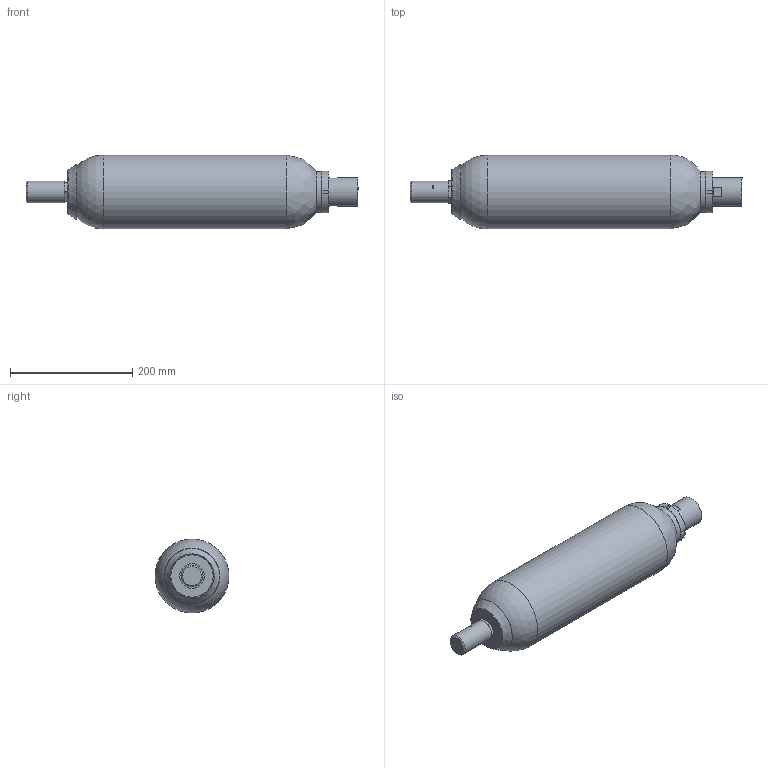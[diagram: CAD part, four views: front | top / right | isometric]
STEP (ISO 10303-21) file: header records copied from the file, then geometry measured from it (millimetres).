
FILE_DESCRIPTION((''),'2;1');
FILE_NAME('F:\STEP\ALLEGE\GAMME_EHV_STD_690bar\EHV_2L5_690_90.stp','2011-03-04T15:04:06',('laurent.simeon'),(''),'Autodesk Inventor 2011','Autodesk Inventor 2011','');
FILE_SCHEMA(('AUTOMOTIVE_DESIGN { 1 0 10303 214 1 1 1 1 }'));
Length unit declared in the file: millimetre
Products named in the file (16): EHV_2L5_690_90; CA109026-00190; CA109027-00190; BE109156-00200; CB109144-00200; EC100986-00200; BE100291-00200; EC102958-00200; PF108610-05200; BP085347-00200
Assembly tree (15 placements, depth 4):
  EHV_2L5_690_90
    CA109026-00190
      CA109027-00190
    BE109156-00200
      CB109144-00200
        CB109144-00200
      EC100986-00200
        EC100986-00200
      BE100291-00200
        BE100291-00200
    EC102958-00200
      EC102958-00200
    PF108610-05200
      PF108610-05200
    BP085347-00200
      BP085347-00200
Bounding box: 543.2 x 121 x 121 mm (x, y, z)
Volume: 1685432.6 mm3; surface area: 360257.2 mm2
Topology: 7 solids, 7 shells, 148 faces, 354 edges, 217 vertices
Faces by surface type: plane 58, cylinder 41, cone 27, torus 18, sphere 3, bspline 1
Full cylindrical faces by diameter (mm): 2 x2, 6.5 x8, 8 x1, 11.5 x1, 13 x1, 20.68 x1, 22.52 x1, 27 x1, 28 x1, 29.5 x1, 29.9 x1, 31 x1, 31.77 x1, 33.7 x1, 35 x1, 47.5 x1, 48 x1, 48.5 x1, 50 x1, 51.8 x2, 60.8 x1, 60.91 x1, 61 x1, 67 x1, 100 x1, 121 x1
Entity records: 4471 total; most frequent: CARTESIAN_POINT 951, DIRECTION 734, ORIENTED_EDGE 520, AXIS2_PLACEMENT_3D 336, EDGE_CURVE 260, EDGE_LOOP 248, VERTEX_POINT 194, CIRCLE 158
